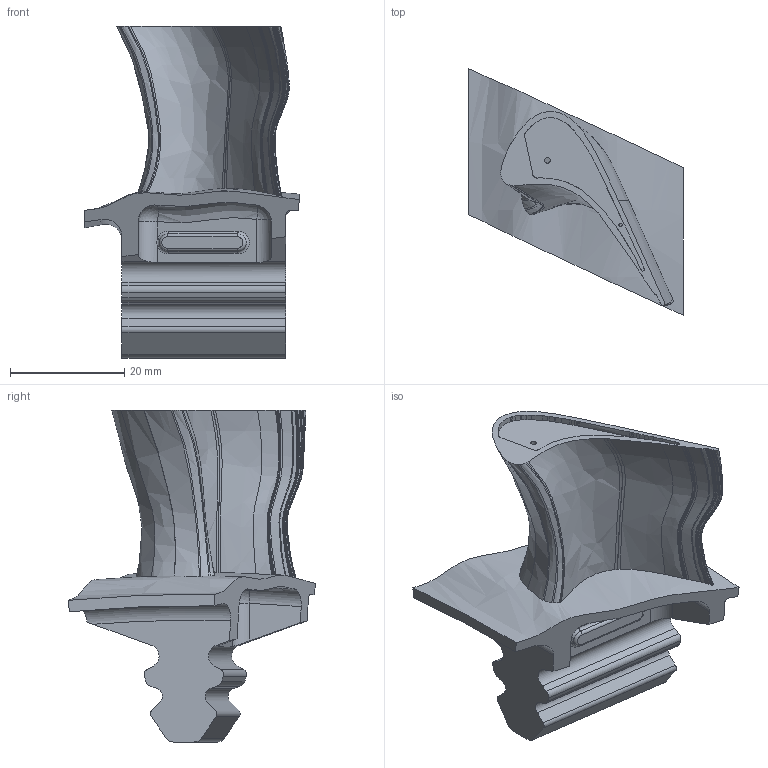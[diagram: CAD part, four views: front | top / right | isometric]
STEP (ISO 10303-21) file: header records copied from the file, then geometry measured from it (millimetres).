
FILE_DESCRIPTION(('CATIA V5 STEP Exchange'),'2;1');
FILE_NAME('.\Snecma_1.stp','2013-09-20T08:56:26+00:00',('none'),('none'),'CATIA Version 5 Release 19 SP 7 (IN-10)','CATIA V5 STEP AP214','none');
FILE_SCHEMA(('AUTOMOTIVE_DESIGN { 1 0 10303 214 3 1 1 1 }'));
Products named in the file (1): FORM1-000000161
Bounding box: 37.49 x 43.14 x 58.02 mm (x, y, z)
Volume: 13496.6 mm3; surface area: 9355.2 mm2
Topology: 1 solids, 1 shells, 399 faces, 1348 edges, 960 vertices
Faces by surface type: bspline 190, plane 79, extrusion 68, cylinder 32, torus 19, revolution 7, sphere 4
Entity records: 59363 total; most frequent: CARTESIAN_POINT 47320, ORIENTED_EDGE 2312, EDGE_CURVE 1158, B_SPLINE_CURVE_WITH_KNOTS 1064, VERTEX_POINT 769, DIRECTION 697, PROPERTY_DEFINITION 562, REPRESENTATION 490
